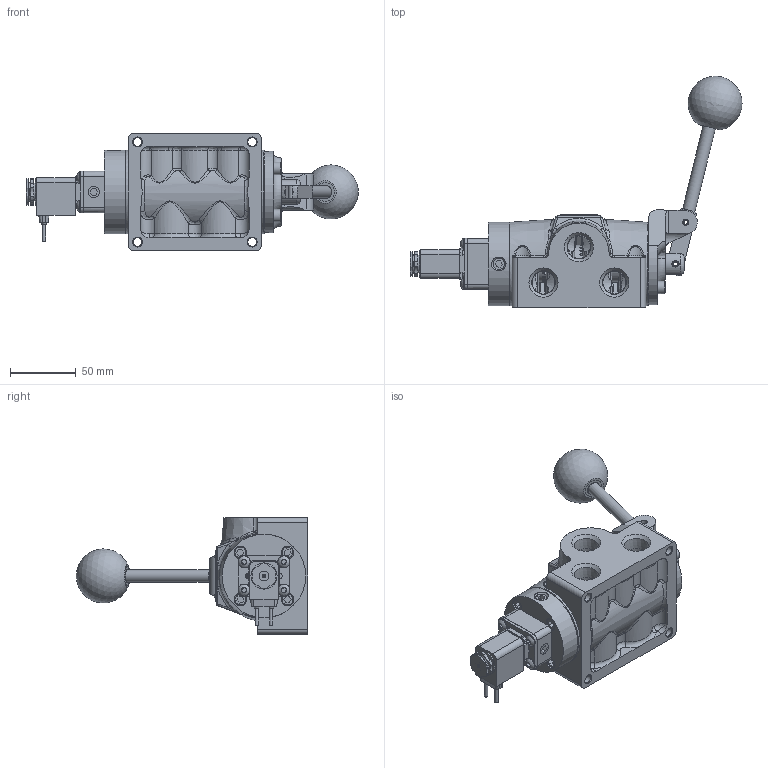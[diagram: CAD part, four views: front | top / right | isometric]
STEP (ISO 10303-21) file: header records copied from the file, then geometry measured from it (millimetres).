
FILE_DESCRIPTION(/* description */ (''),/* implementation_level */ '2;1');
FILE_NAME(/* name */ 'D:\Engineering\Product\valves\Assembly\Standard\ESAH\stp\ESAH4MC.stp',/* time_stamp */ '2021-04-12T08:10:43-04:00',/* author */ ('RMcKenna'),/* organization */ (''),/* preprocessor_version */ 'ST-DEVELOPER v18.1',/* originating_system */ 'Autodesk Inventor 2021',/* authorisation */ '');
FILE_SCHEMA (('AUTOMOTIVE_DESIGN { 1 0 10303 214 3 1 1 }'));
Products named in the file (1): Part6
Bounding box: 252.9 x 176.32 x 88.9 mm (x, y, z)
Volume: 583606.6 mm3; surface area: 145482.4 mm2
Topology: 1 solids, 33 shells, 2246 faces, 5554 edges, 3493 vertices
Faces by surface type: plane 829, cylinder 531, bspline 351, cone 345, torus 167, sphere 23
Full cylindrical faces by diameter (mm): 1.168 x10, 1.3 x1, 1.397 x1, 1.5 x1, 2.032 x4, 2.07 x2, 2.261 x2, 2.35 x4, 2.388 x1, 2.54 x2, 2.778 x2, 2.8 x1, 2.819 x1, 3 x4, 3.048 x5, 3.175 x2, 3.4 x1, 3.683 x6, 4.191 x2, 4.75 x2, 4.763 x2, 4.826 x4, 4.953 x1, 4.978 x8, 5.15 x4, 5.156 x4, 5.5 x1, 6.35 x8, 6.553 x1, 6.629 x4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
Entity records: 84135 total; most frequent: CARTESIAN_POINT 30750, ORIENTED_EDGE 11018, DIRECTION 9941, EDGE_CURVE 5509, AXIS2_PLACEMENT_3D 3850, VERTEX_POINT 3493, EDGE_LOOP 2518, FACE_OUTER_BOUND 2246
